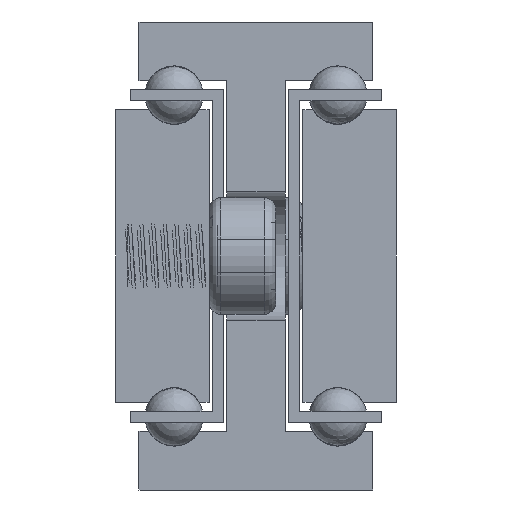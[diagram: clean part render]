
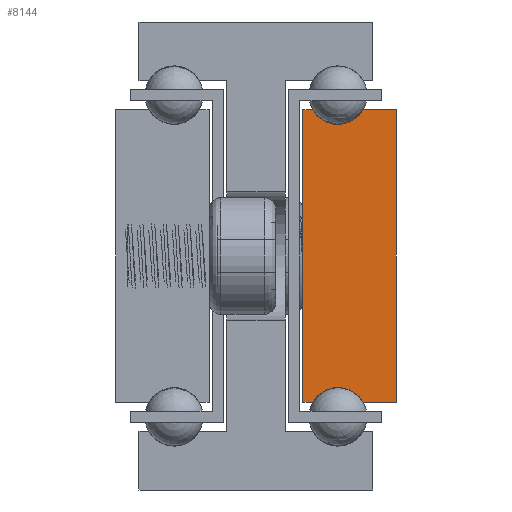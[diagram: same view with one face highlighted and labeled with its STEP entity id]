
A CAD part, front view. The second image highlights one B-rep face of the part: STEP entity #8144.
In plain terms, the highlighted planar face has unit normal (0, -1, 0).
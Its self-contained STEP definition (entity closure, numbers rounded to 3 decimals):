
#530=CIRCLE('',#8749,2.5);
#532=CIRCLE('',#8755,2.5);
#858=FACE_OUTER_BOUND('',#1372,.T.);
#1372=EDGE_LOOP('',(#5828,#5829,#5830,#5831,#5832,#5833,#5834,#5835));
#2094=LINE('',#11880,#2928);
#2098=LINE('',#11888,#2932);
#2102=LINE('',#11900,#2936);
#2105=LINE('',#11906,#2939);
#2108=LINE('',#11912,#2942);
#2112=LINE('',#11923,#2946);
#2928=VECTOR('',#9600,1.);
#2932=VECTOR('',#9606,1.);
#2936=VECTOR('',#9618,1.);
#2939=VECTOR('',#9623,1.);
#2942=VECTOR('',#9628,1.);
#2946=VECTOR('',#9640,1.);
#3758=VERTEX_POINT('',#11878);
#3759=VERTEX_POINT('',#11879);
#3762=VERTEX_POINT('',#11887);
#3764=VERTEX_POINT('',#11893);
#3766=VERTEX_POINT('',#11899);
#3768=VERTEX_POINT('',#11905);
#3770=VERTEX_POINT('',#11911);
#3772=VERTEX_POINT('',#11917);
#4624=EDGE_CURVE('',#3758,#3759,#2094,.T.);
#4628=EDGE_CURVE('',#3759,#3762,#2098,.T.);
#4631=EDGE_CURVE('',#3762,#3764,#530,.T.);
#4634=EDGE_CURVE('',#3764,#3766,#2102,.T.);
#4637=EDGE_CURVE('',#3766,#3768,#2105,.T.);
#4640=EDGE_CURVE('',#3768,#3770,#2108,.T.);
#4643=EDGE_CURVE('',#3770,#3772,#532,.T.);
#4646=EDGE_CURVE('',#3772,#3758,#2112,.T.);
#5828=ORIENTED_EDGE('',*,*,#4646,.T.);
#5829=ORIENTED_EDGE('',*,*,#4624,.T.);
#5830=ORIENTED_EDGE('',*,*,#4628,.T.);
#5831=ORIENTED_EDGE('',*,*,#4631,.T.);
#5832=ORIENTED_EDGE('',*,*,#4634,.T.);
#5833=ORIENTED_EDGE('',*,*,#4637,.T.);
#5834=ORIENTED_EDGE('',*,*,#4640,.T.);
#5835=ORIENTED_EDGE('',*,*,#4643,.T.);
#7786=PLANE('',#8758);
#8144=ADVANCED_FACE('',(#858),#7786,.F.);
#8749=AXIS2_PLACEMENT_3D('',#11894,#9611,#9612);
#8755=AXIS2_PLACEMENT_3D('',#11918,#9633,#9634);
#8758=AXIS2_PLACEMENT_3D('',#11925,#9642,#9643);
#9600=DIRECTION('',(0.,0.,1.));
#9606=DIRECTION('',(-1.,0.,0.));
#9611=DIRECTION('center_axis',(0.,1.,0.));
#9612=DIRECTION('ref_axis',(0.866,0.,-0.5));
#9618=DIRECTION('',(-1.,0.,0.));
#9623=DIRECTION('',(0.,0.,-1.));
#9628=DIRECTION('',(1.,0.,0.));
#9633=DIRECTION('center_axis',(0.,1.,0.));
#9634=DIRECTION('ref_axis',(-0.866,0.,0.5));
#9640=DIRECTION('',(1.,0.,0.));
#9642=DIRECTION('center_axis',(0.,1.,0.));
#9643=DIRECTION('ref_axis',(-1.,0.,0.));
#11878=CARTESIAN_POINT('',(2492.3,680.64,462.5));
#11879=CARTESIAN_POINT('',(2492.3,680.64,487.5));
#11880=CARTESIAN_POINT('',(2492.3,680.64,462.5));
#11887=CARTESIAN_POINT('',(2489.465,680.64,487.5));
#11888=CARTESIAN_POINT('',(2492.3,680.64,487.5));
#11893=CARTESIAN_POINT('',(2485.135,680.64,487.5));
#11894=CARTESIAN_POINT('Origin',(2487.3,680.64,488.75));
#11899=CARTESIAN_POINT('',(2484.3,680.64,487.5));
#11900=CARTESIAN_POINT('',(2485.135,680.64,487.5));
#11905=CARTESIAN_POINT('',(2484.3,680.64,462.5));
#11906=CARTESIAN_POINT('',(2484.3,680.64,487.5));
#11911=CARTESIAN_POINT('',(2485.135,680.64,462.5));
#11912=CARTESIAN_POINT('',(2484.3,680.64,462.5));
#11917=CARTESIAN_POINT('',(2489.465,680.64,462.5));
#11918=CARTESIAN_POINT('Origin',(2487.3,680.64,461.25));
#11923=CARTESIAN_POINT('',(2489.465,680.64,462.5));
#11925=CARTESIAN_POINT('Origin',(2488.312,680.64,475.));
